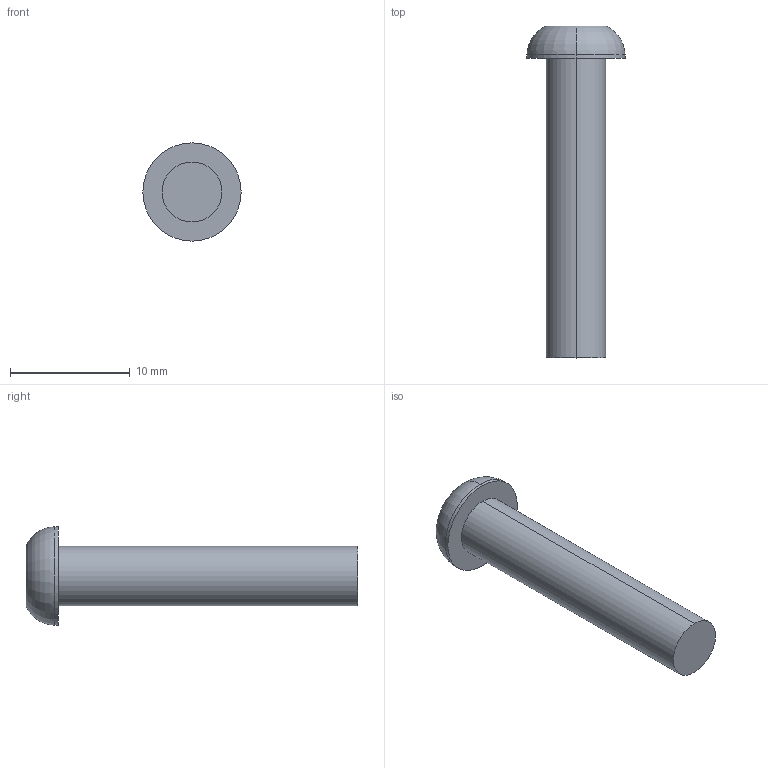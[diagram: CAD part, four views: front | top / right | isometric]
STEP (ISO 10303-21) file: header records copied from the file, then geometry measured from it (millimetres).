
FILE_DESCRIPTION (( 'STEP AP203' ), '1' );
FILE_NAME ('VF_VAMxXxxBX-X.STEP', '2017-10-09T08:45:14', ( 'utente' ), ( 'Microsoft' ), 'SwSTEP 2.0', 'SolidWorks 2014', '' );
FILE_SCHEMA (( 'CONFIG_CONTROL_DESIGN' ));
Length unit declared in the file: millimetre
Products named in the file (2): 5923_8774; VF_VAMxXxxBX-X
Assembly tree (1 placements, depth 2):
  VF_VAMxXxxBX-X
    5923_8774
Bounding box: 8.2 x 27.7 x 8.2 mm (x, y, z)
Volume: 598.1 mm3; surface area: 574.6 mm2
Topology: 1 solids, 1 shells, 42 faces, 109 edges, 72 vertices
Faces by surface type: cylinder 23, plane 17, torus 2
Entity records: 1503 total; most frequent: DIRECTION 251, CARTESIAN_POINT 227, ORIENTED_EDGE 218, EDGE_CURVE 109, AXIS2_PLACEMENT_3D 96, VERTEX_POINT 72, VECTOR 59, LINE 59
